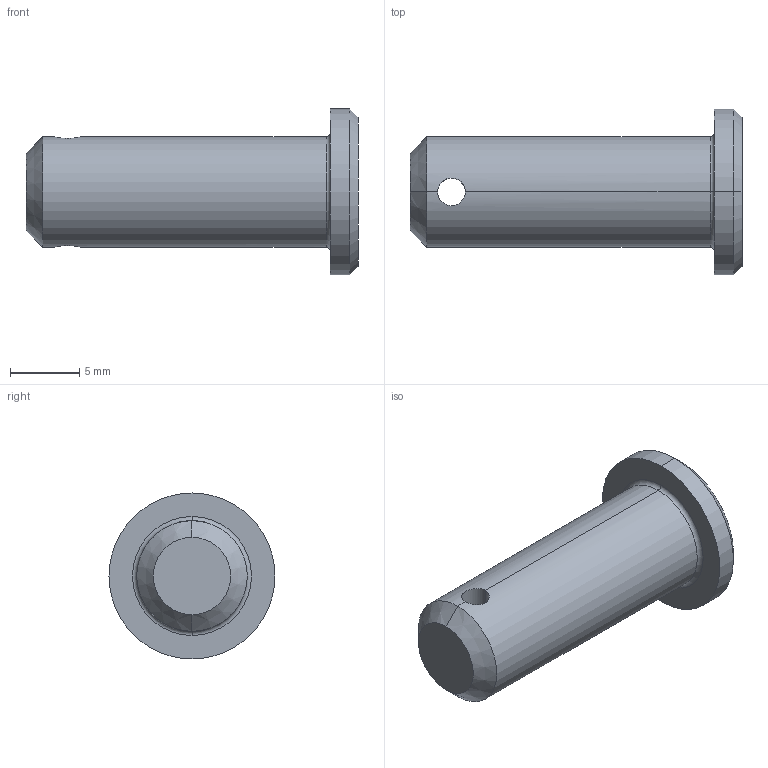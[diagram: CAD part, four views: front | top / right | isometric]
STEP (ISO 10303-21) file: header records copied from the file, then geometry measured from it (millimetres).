
FILE_DESCRIPTION (( 'STEP AP203' ), '1' );
FILE_NAME ('Wiberger-sms2360_8x22.step', '2012-10-09T08:58:47', ( 'Magnus' ), ( 'Wiberger' ), 'SwSTEP 2.0', 'SolidWorks 2011', '' );
FILE_SCHEMA (( 'CONFIG_CONTROL_DESIGN' ));
Length unit declared in the file: millimetre
Products named in the file (1): Wiberger-sms2360_8x22
Bounding box: 24 x 12 x 12 mm (x, y, z)
Volume: 1284.7 mm3; surface area: 861.2 mm2
Topology: 1 solids, 1 shells, 15 faces, 32 edges, 18 vertices
Faces by surface type: cylinder 6, cone 4, plane 3, torus 2
Entity records: 543 total; most frequent: CARTESIAN_POINT 134, DIRECTION 76, ORIENTED_EDGE 64, EDGE_CURVE 32, AXIS2_PLACEMENT_3D 32, VERTEX_POINT 18, EDGE_LOOP 16, CIRCLE 16
